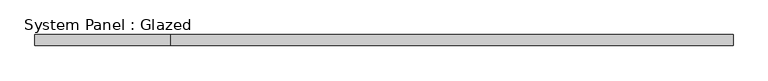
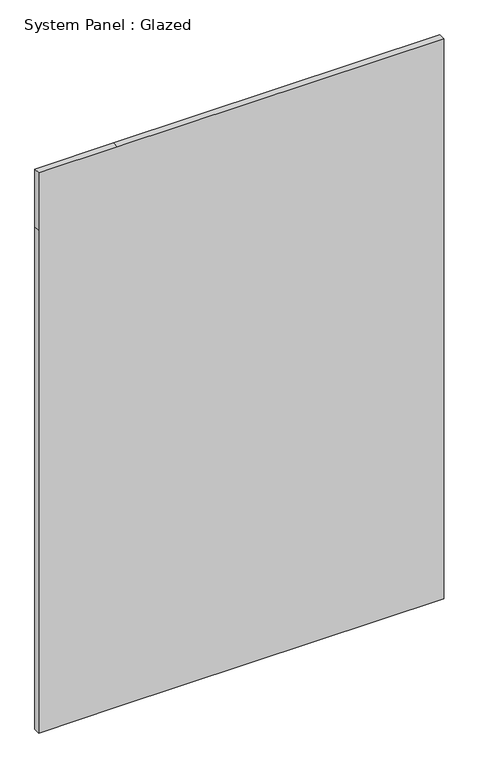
"""IFC4 building model written with IfcOpenShell, lengths in millimetres: plate geometry, System Panel : Glazed."""

import ifcopenshell
import ifcopenshell.guid

model = None  # the IFC model being written
_history = None  # IfcOwnerHistory: only IFC2X3 demands one
_inside = {}  # id of a spatial element -> (the spatial element, [elements in it])
_under = {}  # id of a project, library or spatial element -> (it, [spatial elements below it])
_declared = {}  # id of a project -> (the project, [libraries it declares])
_typed = {}  # id of a type object -> (the type object, [elements of that type])
_made_of = {}  # id of a material, layer set ... -> (it, [elements and type objects made of it])


def new_model(schema):
    """Start an empty IFC model of exactly this schema.

    Asked for "IFC4X3", IfcOpenShell would pick the latest addendum, in which some entities
    have other attributes; the version numbers below select the first issue.
    IFC2X3 requires an IfcOwnerHistory on every rooted entity: one is made here for all.
    """
    global model, _history
    if schema == "IFC4X3":
        model = ifcopenshell.file(schema_version=(4, 3, 0, 0))
    else:
        model = ifcopenshell.file(schema=schema)
    _inside.clear()
    _under.clear()
    _declared.clear()
    _typed.clear()
    _made_of.clear()
    _history = None
    if model.schema == "IFC2X3":
        org = make("IfcOrganization", Name="unknown")
        user = make(
            "IfcPersonAndOrganization",
            ThePerson=make("IfcPerson", FamilyName="unknown"),
            TheOrganization=org,
        )
        app = make(
            "IfcApplication",
            ApplicationDeveloper=org,
            Version="unknown",
            ApplicationFullName="unknown",
            ApplicationIdentifier="unknown",
        )
        _history = make(
            "IfcOwnerHistory",
            OwningUser=user,
            OwningApplication=app,
            ChangeAction="ADDED",
            CreationDate=0,
        )
    return model


def make(cls, **values):
    """One entity of the class cls with the attributes given. An attribute that is None is left unset."""
    return model.create_entity(
        cls, **{name: value for name, value in values.items() if value is not None}
    )


def rooted(cls, **values):
    """An entity with a GlobalId (a new one), such as an element, a storey or a relation."""
    return make(cls, GlobalId=ifcopenshell.guid.new(), OwnerHistory=_history, **values)


def si_unit(unit_type, name, prefix=None):
    """IfcSIUnit, for example si_unit("LENGTHUNIT", "METRE", prefix="MILLI")."""
    return make("IfcSIUnit", UnitType=unit_type, Prefix=prefix, Name=name)


def assignment(units):
    """IfcUnitAssignment: the units of a project."""
    return None if units is None else make("IfcUnitAssignment", Units=units)


def point(xyz):
    """IfcCartesianPoint."""
    return None if xyz is None else make("IfcCartesianPoint", Coordinates=xyz)


def direction(xyz):
    """IfcDirection."""
    return None if xyz is None else make("IfcDirection", DirectionRatios=xyz)


def frame(location, z_axis=None, x_axis=None):
    """IfcAxis2Placement3D, a coordinate frame: its origin and axes. An axis left out is left unset."""
    return make(
        "IfcAxis2Placement3D",
        Location=point(location),
        Axis=direction(z_axis),
        RefDirection=direction(x_axis),
    )


def origin():
    """The frame at (0, 0, 0) with its axes left unset."""
    return frame((0.0, 0.0, 0.0))


def place(relative_to, where):
    """IfcLocalPlacement: puts the frame where relative to a parent placement (None: the world)."""
    return make(
        "IfcLocalPlacement", PlacementRelTo=relative_to, RelativePlacement=where
    )


def context(
    kind, dimensions, precision=None, world=None, true_north=None, identifier=None
):
    """IfcGeometricRepresentationContext, for example the 3D "Model" context."""
    return make(
        "IfcGeometricRepresentationContext",
        ContextIdentifier=identifier,
        ContextType=kind,
        CoordinateSpaceDimension=dimensions,
        Precision=precision,
        WorldCoordinateSystem=world,
        TrueNorth=true_north,
    )


def project(units=None, contexts=None):
    """IfcProject with its units and contexts."""
    return rooted(
        "IfcProject",
        Name="project",
        RepresentationContexts=contexts,
        UnitsInContext=assignment(units),
    )


def spatial(cls, under=None, at=None, **own):
    """A site, building, storey or space (cls), placed at a placement, below another one or the project."""
    s = rooted(cls, ObjectPlacement=at, **own)
    if under is not None:
        _under.setdefault(under.id(), (under, []))[1].append(s)
    return s


def polyline(points):
    """IfcPolyline through the points."""
    return make("IfcPolyline", Points=[point(p) for p in points])


def outline(outer, holes=None, kind="AREA"):
    """IfcArbitraryClosedProfileDef: a profile drawn as a closed curve; with holes, ...WithVoids."""
    if holes is None:
        return make("IfcArbitraryClosedProfileDef", ProfileType=kind, OuterCurve=outer)
    return make(
        "IfcArbitraryProfileDefWithVoids",
        ProfileType=kind,
        OuterCurve=outer,
        InnerCurves=holes,
    )


def extrude(swept, where, along, depth):
    """IfcExtrudedAreaSolid: the profile swept, set in the frame where, extruded along a direction by depth."""
    return make(
        "IfcExtrudedAreaSolid",
        SweptArea=swept,
        Position=where,
        ExtrudedDirection=direction(along),
        Depth=depth,
    )


def shape(context_of_items, identifier, shape_type, items):
    """IfcShapeRepresentation: the items that make up one representation, for example the "Body"."""
    return make(
        "IfcShapeRepresentation",
        ContextOfItems=context_of_items,
        RepresentationIdentifier=identifier,
        RepresentationType=shape_type,
        Items=items,
    )


def source(mapping_origin, context_of_items, identifier, shape_type, items):
    """IfcRepresentationMap: a shape defined once, which mapped items show again and again."""
    return make(
        "IfcRepresentationMap",
        MappingOrigin=mapping_origin,
        MappedRepresentation=shape(context_of_items, identifier, shape_type, items),
    )


def transform(
    local_origin,
    x_axis=None,
    y_axis=None,
    z_axis=None,
    scale=None,
    scale2=None,
    scale3=None,
    uniform=True,
):
    """IfcCartesianTransformationOperator3D, or its non-uniform kind. x_axis, y_axis, z_axis: its Axis1, 2, 3."""
    if uniform:
        return make(
            "IfcCartesianTransformationOperator3D",
            Axis1=direction(x_axis),
            Axis2=direction(y_axis),
            LocalOrigin=point(local_origin),
            Scale=scale,
            Axis3=direction(z_axis),
        )
    return make(
        "IfcCartesianTransformationOperator3DnonUniform",
        Axis1=direction(x_axis),
        Axis2=direction(y_axis),
        LocalOrigin=point(local_origin),
        Scale=scale,
        Axis3=direction(z_axis),
        Scale2=scale2,
        Scale3=scale3,
    )


def mapped(mapping_source, mapping_target):
    """IfcMappedItem: shows the shape of a source again, moved by a transform."""
    return make(
        "IfcMappedItem", MappingSource=mapping_source, MappingTarget=mapping_target
    )


def made_of(thing, what):
    """Note that an element or type object is made of a material, layer set ...; save() writes the relation."""
    if what is not None:
        _made_of.setdefault(what.id(), (what, []))[1].append(thing)
    return thing


def element(
    cls,
    number,
    at=None,
    inside=None,
    cuts=None,
    type_object=None,
    material=None,
    context=None,
    identifier="Body",
    shape_type=None,
    held_by="IfcProductDefinitionShape",
    body=None,
    shapes=None,
    **own,
):
    """One element of the class cls, such as IfcWall. Its Tag is "e" and its number.

    at: its placement. inside: the storey or other place that contains it. cuts: it is an
    opening in that element (IfcRelVoidsElement). A single representation is given by context,
    identifier, shape_type and body (its items); several are given by shapes. held_by: the class
    of the entity that holds the representations. save() writes the other relations.
    """
    e = rooted(cls, Tag="e%d" % number, ObjectPlacement=at, **own)
    if body is not None:
        shapes = [shape(context, identifier, shape_type, body)]
    if shapes is not None:
        e.Representation = make(held_by, Representations=shapes)
    if inside is not None:
        _inside.setdefault(inside.id(), (inside, []))[1].append(e)
    if cuts is not None:
        rooted(
            "IfcRelVoidsElement", RelatingBuildingElement=cuts, RelatedOpeningElement=e
        )
    if type_object is not None:
        _typed.setdefault(type_object.id(), (type_object, []))[1].append(e)
    return made_of(e, material)


def aggregate(whole, parts):
    """IfcRelAggregates: a whole, such as a stair, and the parts it consists of."""
    return rooted("IfcRelAggregates", RelatingObject=whole, RelatedObjects=parts)


def save(model, path):
    """Write the relations noted so far, then the file.

    IfcRelAggregates (storeys below a building ...), IfcRelContainedInSpatialStructure (elements
    in a storey), IfcRelDefinesByType, IfcRelAssociatesMaterial and IfcRelDeclares: one each for
    every whole, place, type object, material and project.
    """
    for whole, parts in _under.values():
        aggregate(whole, parts)
    for where, things in _inside.values():
        rooted(
            "IfcRelContainedInSpatialStructure",
            RelatedElements=things,
            RelatingStructure=where,
        )
    for kind, things in _typed.values():
        rooted("IfcRelDefinesByType", RelatedObjects=things, RelatingType=kind)
    for what, things in _made_of.values():
        rooted("IfcRelAssociatesMaterial", RelatedObjects=things, RelatingMaterial=what)
    for by, libraries in _declared.values():
        rooted("IfcRelDeclares", RelatingContext=by, RelatedDefinitions=libraries)
    model.write(path)


def system_panel_glazed_cf112098(model_context):
    return source(origin(), model_context, "Body", "SweptSolid", [
        extrude(outline(polyline([(0.0, -800.89375), (0.0, -488.95), (0.0, 800.89375), (2101.85, 800.89375), (2343.15, 800.89375), (2343.15, -488.95), (2343.15, -800.89375), (2101.85, -800.89375), (0.0, -800.89375)])), frame((0.0, 19.05, 0.0), z_axis=(0.0, 1.0, 0.0), x_axis=(0.0, 0.0, 1.0)), (0.0, 0.0, 1.0), 25.4),
    ])


if __name__ == "__main__":
    model = new_model("IFC4")
    model_context = context("Model", 3, world=origin())
    ifc_project = project(units=[si_unit("LENGTHUNIT", "METRE", prefix="MILLI")], contexts=[model_context])
    site = spatial("IfcSite", under=ifc_project)
    building = spatial("IfcBuilding", under=site)
    placement = place(None, origin())
    system_panel_glazed_shape = system_panel_glazed_cf112098(model_context)
    element("IfcPlate", 1, ObjectType="System Panel : Glazed", at=placement, inside=building, context=model_context, shape_type="MappedRepresentation", body=[
        mapped(system_panel_glazed_shape, transform((0.0, 0.0, 0.0), x_axis=(1.0, 0.0, 0.0), y_axis=(0.0, 1.0, 0.0), z_axis=(0.0, 0.0, 1.0))),
    ])
    save(model, "model.ifc")
